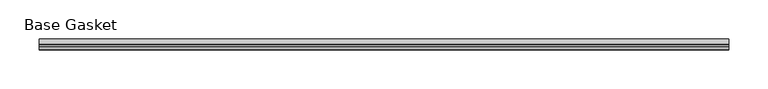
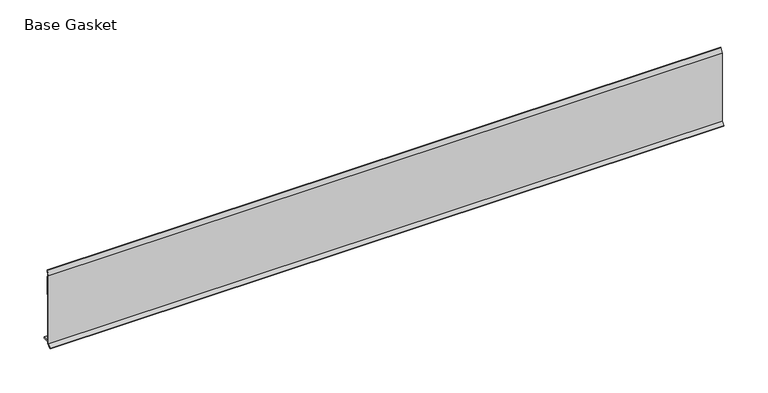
"""IFC4 building model written with IfcOpenShell, lengths in millimetres: furniture geometry, Gasket-Teknion-FHGB-AI_Healthcare-R2021 : Base Gasket."""

from ifc_helpers import new_model, si_unit, frame, origin, place, context, project, spatial, polyline, outline, extrude, source, transform, mapped, element, save


def base_gasket_be28e318(model_context):
    return source(origin(), model_context, "Body", "SweptSolid", [
        extrude(outline(polyline([(-3.7283812, 98.4568417), (-1.1891543, 104.587663), (-0.6755308, 105.2002997), (-0.6755308, 104.4162708), (-2.2043812, 98.4568417), (-2.2043812, 96.8693477), (-1.4106313, 96.8693477), (-1.4106313, 71.4693447), (-2.2043812, 71.4693447), (-2.2043812, 7.9398773), (6.2405171, 7.9398773), (6.2405171, 6.3818476), (-2.1334222, 6.3818476), (-2.2043812, 4.3498477), (-6.8281054, 0.3520979), (-7.8482342, 0.0), (-7.4222115, 0.6560174), (-3.7283812, 4.3498477), (-3.7283812, 98.4568417)])), frame((-1527.8982117, 0.0, 0.0), z_axis=(1.0, 0.0, 0.0), x_axis=(0.0, 1.0, 0.0)), (0.0, 0.0, 1.0), 882.0071795),
    ])


if __name__ == "__main__":
    model = new_model("IFC4")
    model_context = context("Model", 3, world=origin())
    ifc_project = project(units=[si_unit("LENGTHUNIT", "METRE", prefix="MILLI")], contexts=[model_context])
    site = spatial("IfcSite", under=ifc_project)
    building = spatial("IfcBuilding", under=site)
    placement = place(None, origin())
    base_gasket_shape = base_gasket_be28e318(model_context)
    element("IfcFurniture", 1, ObjectType="Gasket-Teknion-FHGB-AI_Healthcare-R2021 : Base Gasket", at=placement, inside=building, context=model_context, shape_type="MappedRepresentation", body=[
        mapped(base_gasket_shape, transform((0.0, 0.0, 0.0), x_axis=(1.0, 0.0, 0.0), y_axis=(0.0, 1.0, 0.0), z_axis=(0.0, 0.0, 1.0))),
    ])
    save(model, "model.ifc")
